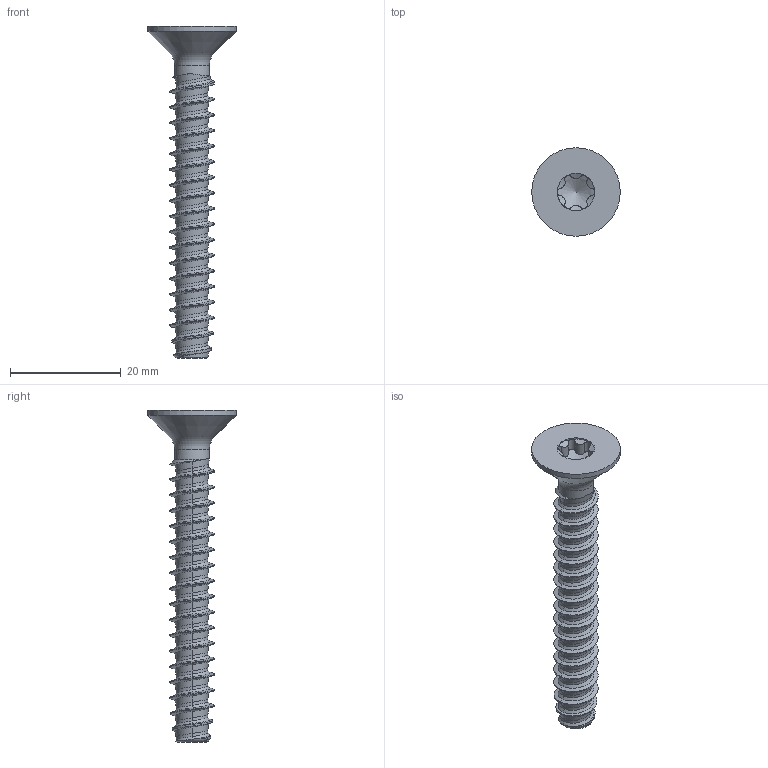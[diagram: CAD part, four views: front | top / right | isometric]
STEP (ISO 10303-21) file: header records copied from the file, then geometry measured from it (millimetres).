
FILE_DESCRIPTION(/* description */ (''),/* implementation_level */ '2;1');
FILE_NAME(/* name */ 'KN6041-STSplus-80x60-T40.step',/* time_stamp */ '2017-10-12T11:10:52+02:00',/* author */ (''),/* organization */ (''),/* preprocessor_version */ 'ST-DEVELOPER v16',/* originating_system */ 'SIEMENS PLM Software NX 10.0',/* authorisation */ '');
FILE_SCHEMA (('AUTOMOTIVE_DESIGN { 1 0 10303 214 3 1 1 1 }'));
Length unit declared in the file: millimetre
Products named in the file (1): KN6041-STSplus-80x60-T40
Bounding box: 16 x 16 x 60 mm (x, y, z)
Volume: 2289.6 mm3; surface area: 2183 mm2
Topology: 1 solids, 1 shells, 120 faces, 280 edges, 162 vertices
Faces by surface type: bspline 95, cylinder 16, cone 5, torus 2, plane 2
Full cylindrical faces by diameter (mm): 6.27 x1, 6.77 x1, 16 x1
Entity records: 9587 total; most frequent: CARTESIAN_POINT 7530, ORIENTED_EDGE 530, EDGE_CURVE 265, DIRECTION 176, VERTEX_POINT 156, B_SPLINE_CURVE_WITH_KNOTS 152, EDGE_LOOP 128, ADVANCED_FACE 120
